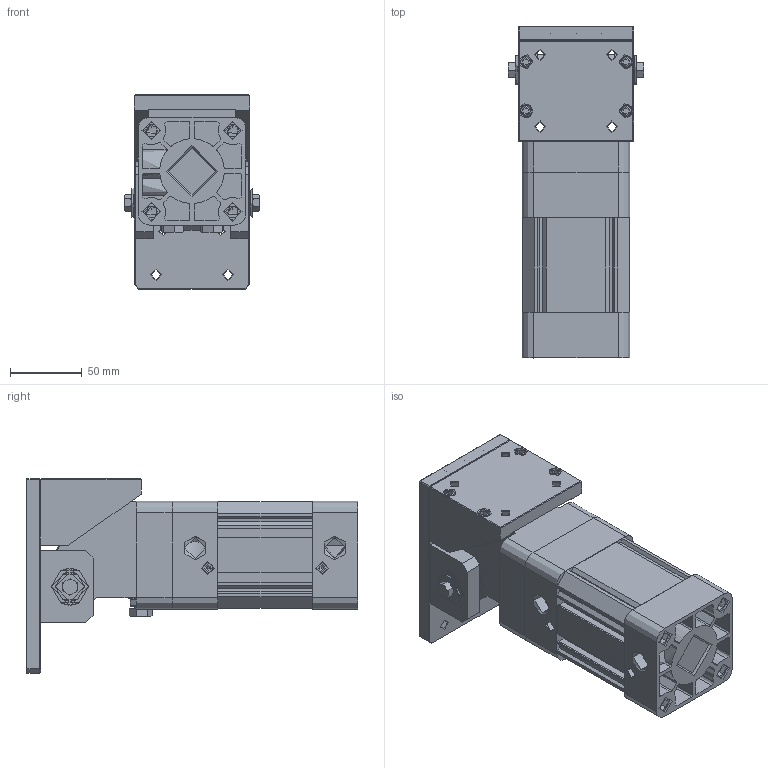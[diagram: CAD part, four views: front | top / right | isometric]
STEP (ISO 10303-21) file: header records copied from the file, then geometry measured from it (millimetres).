
FILE_DESCRIPTION(/* description */ (''),/* implementation_level */ '2;1');
FILE_NAME(/* name */ 'DHR2C-63M40PPV-ZG-LB.stp',/* time_stamp */ '2025-06-12T08:21:10+08:00',/* author */ (''),/* organization */ (''),/* preprocessor_version */ 'ST-DEVELOPER v15',/* originating_system */ 'SIEMENS PLM Software NX 10.0',/* authorisation */ '');
FILE_SCHEMA (('AP203_CONFIGURATION_CONTROLLED_3D_DESIGN_OF_MECHANICAL_PARTS_AND_ASSEMBLIES_MIM_LF { 1 0 10303 403 2 1 2}'));
Products named in the file (1): Admi31B8C635pvfz
Bounding box: 94 x 230.51 x 135 mm (x, y, z)
Topology: 48 solids, 63 shells, 1748 faces, 4905 edges, 3266 vertices
Faces by surface type: plane 770, cylinder 512, cone 260, torus 122, bspline 52, sphere 32
Full cylindrical faces by diameter (mm): 2 x2, 4.2 x14, 5 x25, 5.2 x26, 5.5 x11, 6 x13, 6.5 x6, 6.8 x14, 8 x8, 8.085 x4, 8.499 x2, 8.5 x11, 9 x11, 10.5 x4, 12 x2, 13 x8, 14.5 x2, 16 x12, 16.4 x4, 16.5 x2, 16.792 x4, 20 x2, 20.5 x2, 21.396 x4, 22 x7, 24 x2, 26 x2, 28 x4, 41 x1, 44.4 x1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
Entity records: 101446 total; most frequent: CARTESIAN_POINT 61716, ORIENTED_EDGE 8148, DIRECTION 7410, EDGE_CURVE 4074, VERTEX_POINT 2950, AXIS2_PLACEMENT_3D 2821, EDGE_LOOP 2399, LINE 1768
